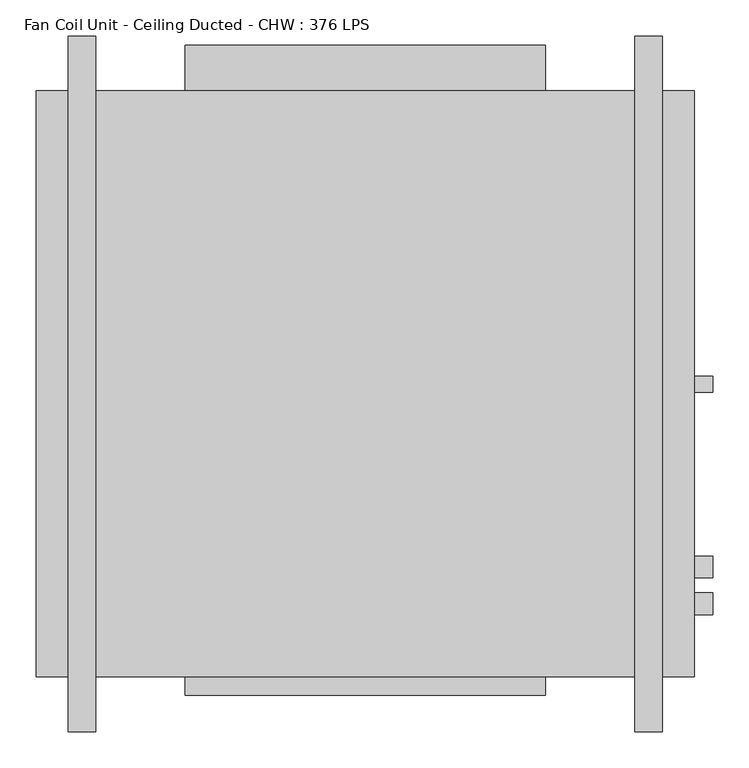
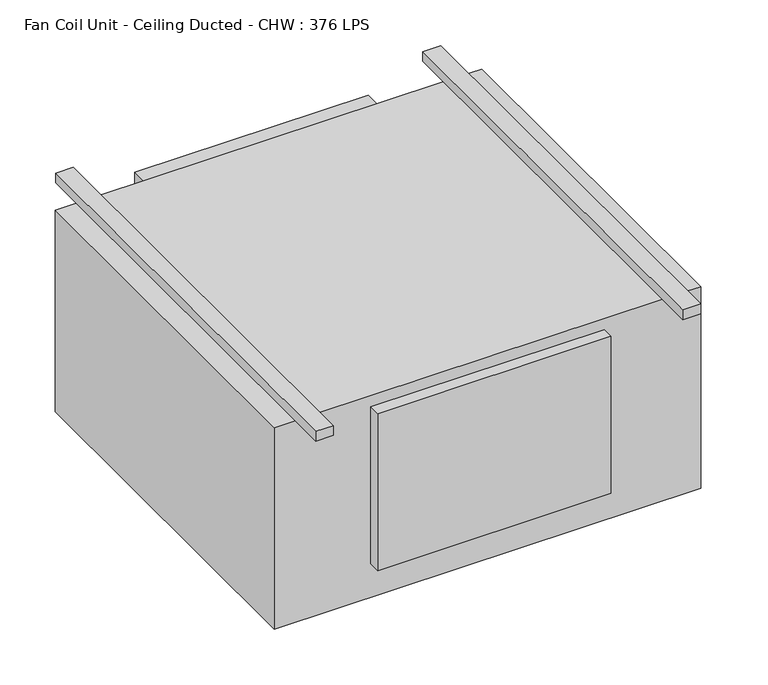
"""IFC4 building model written with IfcOpenShell, lengths in millimetres: proxy geometry, Fan Coil Unit - Ceiling Ducted - CHW : 376 LPS."""

import ifcopenshell
import ifcopenshell.guid

model = None  # the IFC model being written
_history = None  # IfcOwnerHistory: only IFC2X3 demands one
_inside = {}  # id of a spatial element -> (the spatial element, [elements in it])
_under = {}  # id of a project, library or spatial element -> (it, [spatial elements below it])
_declared = {}  # id of a project -> (the project, [libraries it declares])
_typed = {}  # id of a type object -> (the type object, [elements of that type])
_made_of = {}  # id of a material, layer set ... -> (it, [elements and type objects made of it])


def new_model(schema):
    """Start an empty IFC model of exactly this schema.

    Asked for "IFC4X3", IfcOpenShell would pick the latest addendum, in which some entities
    have other attributes; the version numbers below select the first issue.
    IFC2X3 requires an IfcOwnerHistory on every rooted entity: one is made here for all.
    """
    global model, _history
    if schema == "IFC4X3":
        model = ifcopenshell.file(schema_version=(4, 3, 0, 0))
    else:
        model = ifcopenshell.file(schema=schema)
    _inside.clear()
    _under.clear()
    _declared.clear()
    _typed.clear()
    _made_of.clear()
    _history = None
    if model.schema == "IFC2X3":
        org = make("IfcOrganization", Name="unknown")
        user = make(
            "IfcPersonAndOrganization",
            ThePerson=make("IfcPerson", FamilyName="unknown"),
            TheOrganization=org,
        )
        app = make(
            "IfcApplication",
            ApplicationDeveloper=org,
            Version="unknown",
            ApplicationFullName="unknown",
            ApplicationIdentifier="unknown",
        )
        _history = make(
            "IfcOwnerHistory",
            OwningUser=user,
            OwningApplication=app,
            ChangeAction="ADDED",
            CreationDate=0,
        )
    return model


def make(cls, **values):
    """One entity of the class cls with the attributes given. An attribute that is None is left unset."""
    return model.create_entity(
        cls, **{name: value for name, value in values.items() if value is not None}
    )


def rooted(cls, **values):
    """An entity with a GlobalId (a new one), such as an element, a storey or a relation."""
    return make(cls, GlobalId=ifcopenshell.guid.new(), OwnerHistory=_history, **values)


def si_unit(unit_type, name, prefix=None):
    """IfcSIUnit, for example si_unit("LENGTHUNIT", "METRE", prefix="MILLI")."""
    return make("IfcSIUnit", UnitType=unit_type, Prefix=prefix, Name=name)


def assignment(units):
    """IfcUnitAssignment: the units of a project."""
    return None if units is None else make("IfcUnitAssignment", Units=units)


def point(xyz):
    """IfcCartesianPoint."""
    return None if xyz is None else make("IfcCartesianPoint", Coordinates=xyz)


def direction(xyz):
    """IfcDirection."""
    return None if xyz is None else make("IfcDirection", DirectionRatios=xyz)


def frame(location, z_axis=None, x_axis=None):
    """IfcAxis2Placement3D, a coordinate frame: its origin and axes. An axis left out is left unset."""
    return make(
        "IfcAxis2Placement3D",
        Location=point(location),
        Axis=direction(z_axis),
        RefDirection=direction(x_axis),
    )


def origin():
    """The frame at (0, 0, 0) with its axes left unset."""
    return frame((0.0, 0.0, 0.0))


def place(relative_to, where):
    """IfcLocalPlacement: puts the frame where relative to a parent placement (None: the world)."""
    return make(
        "IfcLocalPlacement", PlacementRelTo=relative_to, RelativePlacement=where
    )


def context(
    kind, dimensions, precision=None, world=None, true_north=None, identifier=None
):
    """IfcGeometricRepresentationContext, for example the 3D "Model" context."""
    return make(
        "IfcGeometricRepresentationContext",
        ContextIdentifier=identifier,
        ContextType=kind,
        CoordinateSpaceDimension=dimensions,
        Precision=precision,
        WorldCoordinateSystem=world,
        TrueNorth=true_north,
    )


def project(units=None, contexts=None):
    """IfcProject with its units and contexts."""
    return rooted(
        "IfcProject",
        Name="project",
        RepresentationContexts=contexts,
        UnitsInContext=assignment(units),
    )


def spatial(cls, under=None, at=None, **own):
    """A site, building, storey or space (cls), placed at a placement, below another one or the project."""
    s = rooted(cls, ObjectPlacement=at, **own)
    if under is not None:
        _under.setdefault(under.id(), (under, []))[1].append(s)
    return s


def circle_curve(where, radius):
    """IfcCircle in the frame where."""
    return make("IfcCircle", Position=where, Radius=radius)


def shape(context_of_items, identifier, shape_type, items):
    """IfcShapeRepresentation: the items that make up one representation, for example the "Body"."""
    return make(
        "IfcShapeRepresentation",
        ContextOfItems=context_of_items,
        RepresentationIdentifier=identifier,
        RepresentationType=shape_type,
        Items=items,
    )


def source(mapping_origin, context_of_items, identifier, shape_type, items):
    """IfcRepresentationMap: a shape defined once, which mapped items show again and again."""
    return make(
        "IfcRepresentationMap",
        MappingOrigin=mapping_origin,
        MappedRepresentation=shape(context_of_items, identifier, shape_type, items),
    )


def transform(
    local_origin,
    x_axis=None,
    y_axis=None,
    z_axis=None,
    scale=None,
    scale2=None,
    scale3=None,
    uniform=True,
):
    """IfcCartesianTransformationOperator3D, or its non-uniform kind. x_axis, y_axis, z_axis: its Axis1, 2, 3."""
    if uniform:
        return make(
            "IfcCartesianTransformationOperator3D",
            Axis1=direction(x_axis),
            Axis2=direction(y_axis),
            LocalOrigin=point(local_origin),
            Scale=scale,
            Axis3=direction(z_axis),
        )
    return make(
        "IfcCartesianTransformationOperator3DnonUniform",
        Axis1=direction(x_axis),
        Axis2=direction(y_axis),
        LocalOrigin=point(local_origin),
        Scale=scale,
        Axis3=direction(z_axis),
        Scale2=scale2,
        Scale3=scale3,
    )


def mapped(mapping_source, mapping_target):
    """IfcMappedItem: shows the shape of a source again, moved by a transform."""
    return make(
        "IfcMappedItem", MappingSource=mapping_source, MappingTarget=mapping_target
    )


def made_of(thing, what):
    """Note that an element or type object is made of a material, layer set ...; save() writes the relation."""
    if what is not None:
        _made_of.setdefault(what.id(), (what, []))[1].append(thing)
    return thing


def element(
    cls,
    number,
    at=None,
    inside=None,
    cuts=None,
    type_object=None,
    material=None,
    context=None,
    identifier="Body",
    shape_type=None,
    held_by="IfcProductDefinitionShape",
    body=None,
    shapes=None,
    **own,
):
    """One element of the class cls, such as IfcWall. Its Tag is "e" and its number.

    at: its placement. inside: the storey or other place that contains it. cuts: it is an
    opening in that element (IfcRelVoidsElement). A single representation is given by context,
    identifier, shape_type and body (its items); several are given by shapes. held_by: the class
    of the entity that holds the representations. save() writes the other relations.
    """
    e = rooted(cls, Tag="e%d" % number, ObjectPlacement=at, **own)
    if body is not None:
        shapes = [shape(context, identifier, shape_type, body)]
    if shapes is not None:
        e.Representation = make(held_by, Representations=shapes)
    if inside is not None:
        _inside.setdefault(inside.id(), (inside, []))[1].append(e)
    if cuts is not None:
        rooted(
            "IfcRelVoidsElement", RelatingBuildingElement=cuts, RelatedOpeningElement=e
        )
    if type_object is not None:
        _typed.setdefault(type_object.id(), (type_object, []))[1].append(e)
    return made_of(e, material)


def aggregate(whole, parts):
    """IfcRelAggregates: a whole, such as a stair, and the parts it consists of."""
    return rooted("IfcRelAggregates", RelatingObject=whole, RelatedObjects=parts)


def save(model, path):
    """Write the relations noted so far, then the file.

    IfcRelAggregates (storeys below a building ...), IfcRelContainedInSpatialStructure (elements
    in a storey), IfcRelDefinesByType, IfcRelAssociatesMaterial and IfcRelDeclares: one each for
    every whole, place, type object, material and project.
    """
    for whole, parts in _under.values():
        aggregate(whole, parts)
    for where, things in _inside.values():
        rooted(
            "IfcRelContainedInSpatialStructure",
            RelatedElements=things,
            RelatingStructure=where,
        )
    for kind, things in _typed.values():
        rooted("IfcRelDefinesByType", RelatedObjects=things, RelatingType=kind)
    for what, things in _made_of.values():
        rooted("IfcRelAssociatesMaterial", RelatedObjects=things, RelatingMaterial=what)
    for by, libraries in _declared.values():
        rooted("IfcRelDeclares", RelatingContext=by, RelatedDefinitions=libraries)
    model.write(path)


def plane_surface(at):
    """IfcPlane: the flat surface through the origin of the frame at, square to its z axis."""
    return make("IfcPlane", Position=at)


def cylinder_surface(at, radius):
    """IfcCylindricalSurface: all points at the distance radius from the z axis of the frame at."""
    return make("IfcCylindricalSurface", Position=at, Radius=radius)


def advanced_brep(points, edges, surfaces, faces):
    """IfcAdvancedBrep: a solid bounded by faces that lie on surfaces and meet in shared edges.

    An edge is (start, end): straight between two places in points (the first is 0);
    or (start, end, curve); or (start, end, curve, False) where it runs against its curve.
    A face is (place in surfaces, loops), or (place, loops, False) where it looks against
    its surface's normal. A loop lists edges by number (the first is 1), with a minus sign
    where the edge is run from its end to its start. The first loop is the outer one.
    """
    corners = [point(p) for p in points]
    vertices = [make("IfcVertexPoint", VertexGeometry=c) for c in corners]
    made = []
    for start, end, *more in edges:
        made.append(
            make(
                "IfcEdgeCurve",
                EdgeStart=vertices[start],
                EdgeEnd=vertices[end],
                EdgeGeometry=more[0] if more else make("IfcPolyline", Points=[corners[start], corners[end]]),
                SameSense=more[1] if len(more) > 1 else True,
            )
        )
    hull = []
    for where, loops, *sense in faces:
        bounds = []
        for j, loop in enumerate(loops):
            ring = [make("IfcOrientedEdge", EdgeElement=made[abs(k) - 1], Orientation=k > 0) for k in loop]
            bounds.append(
                make(
                    "IfcFaceOuterBound" if j == 0 else "IfcFaceBound",
                    Bound=make("IfcEdgeLoop", EdgeList=ring),
                    Orientation=True,
                )
            )
        hull.append(make("IfcAdvancedFace", Bounds=bounds, FaceSurface=surfaces[where], SameSense=sense[0] if sense else True))
    return make("IfcAdvancedBrep", Outer=make("IfcClosedShell", CfsFaces=hull))


def fan_coil_unit_ceiling_ducted_chw_376_lps_945e770d(model_context):
    return source(origin(), model_context, "Body", "AdvancedBrep", [
        advanced_brep(
        [(82.55, 889.0, 479.425), (44.45, 889.0, 479.425), (44.45, -76.2, 479.425), (82.55, -76.2, 479.425), (82.55, -76.2, 457.2), (44.45, -76.2, 457.2), (44.45, 0.0, 457.2), (82.55, 0.0, 457.2), (44.45, 889.0, 457.2), (82.55, 889.0, 457.2), (82.55, 812.8, 457.2), (44.45, 812.8, 457.2), (869.55, 889.0, 479.425), (831.45, 889.0, 479.425), (831.45, -76.2, 479.425), (869.55, -76.2, 479.425), (869.55, -76.2, 457.2), (831.45, -76.2, 457.2), (831.45, 0.0, 457.2), (869.55, 0.0, 457.2), (831.45, 889.0, 457.2), (869.55, 889.0, 457.2), (869.55, 812.8, 457.2), (831.45, 812.8, 457.2), (939.4, 137.4, 381.0), (939.4, 167.4, 381.0), (914.0, 137.4, 381.0), (914.0, 167.4, 381.0), (939.4, 86.6, 101.6), (939.4, 116.6, 101.6), (914.0, 86.6, 101.6), (914.0, 116.6, 101.6), (939.4, 395.2875, 38.1), (939.4, 417.5125, 38.1), (914.0, 395.2875, 38.1), (914.0, 417.5125, 38.1), (0.0, 812.8, 457.2), (0.0, 0.0, 457.2), (914.0, 0.0, 457.2), (914.0, 812.8, 457.2), (914.0, 812.8, 0.0), (914.0, 0.0, 0.0), (0.0, 0.0, 0.0), (0.0, 812.8, 0.0), (707.0, 812.8, 431.8), (207.0, 812.8, 431.8), (207.0, 812.8, 76.2), (707.0, 812.8, 76.2), (207.0, 0.0, 431.8), (707.0, 0.0, 431.8), (707.0, 0.0, 76.2), (207.0, 0.0, 76.2), (707.0, 876.3, 431.8), (207.0, 876.3, 431.8), (707.0, 876.3, 76.2), (207.0, 876.3, 76.2), (207.0, -25.4, 431.8), (707.0, -25.4, 431.8), (707.0, -25.4, 76.2), (207.0, -25.4, 76.2)],
        [
            (0, 1),
            (1, 2),
            (2, 3),
            (3, 0),
            (4, 5),
            (5, 6),
            (6, 7),
            (7, 4),
            (8, 9),
            (9, 10),
            (10, 11),
            (11, 8),
            (0, 9),
            (8, 1),
            (11, 6),
            (5, 2),
            (4, 3),
            (7, 10),
            (12, 13),
            (13, 14),
            (14, 15),
            (15, 12),
            (16, 17),
            (17, 18),
            (18, 19),
            (19, 16),
            (20, 21),
            (21, 22),
            (22, 23),
            (23, 20),
            (12, 21),
            (20, 13),
            (23, 18),
            (17, 14),
            (16, 15),
            (19, 22),
            (24, 25, circle_curve(frame((939.4, 152.4, 381.0), z_axis=(1.0, 0.0, 0.0), x_axis=(0.0, 1.0, 0.0)), 15.0)),
            (25, 24, circle_curve(frame((939.4, 152.4, 381.0), z_axis=(1.0, 0.0, 0.0), x_axis=(0.0, 1.0, 0.0)), 15.0)),
            (24, 26),
            (26, 27, circle_curve(frame((914.0, 152.4, 381.0), z_axis=(1.0, 0.0, 0.0), x_axis=(0.0, 1.0, 0.0)), 15.0)),
            (27, 25),
            (27, 26, circle_curve(frame((914.0, 152.4, 381.0), z_axis=(1.0, 0.0, 0.0), x_axis=(0.0, 1.0, 0.0)), 15.0)),
            (28, 29, circle_curve(frame((939.4, 101.6, 101.6), z_axis=(1.0, 0.0, 0.0), x_axis=(0.0, 1.0, 0.0)), 15.0)),
            (29, 28, circle_curve(frame((939.4, 101.6, 101.6), z_axis=(1.0, 0.0, 0.0), x_axis=(0.0, 1.0, 0.0)), 15.0)),
            (28, 30),
            (30, 31, circle_curve(frame((914.0, 101.6, 101.6), z_axis=(1.0, 0.0, 0.0), x_axis=(0.0, 1.0, 0.0)), 15.0)),
            (31, 29),
            (31, 30, circle_curve(frame((914.0, 101.6, 101.6), z_axis=(1.0, 0.0, 0.0), x_axis=(0.0, 1.0, 0.0)), 15.0)),
            (32, 33, circle_curve(frame((939.4, 406.4, 38.1), z_axis=(1.0, 0.0, 0.0), x_axis=(0.0, 1.0, 0.0)), 11.1125)),
            (33, 32, circle_curve(frame((939.4, 406.4, 38.1), z_axis=(1.0, 0.0, 0.0), x_axis=(0.0, 1.0, 0.0)), 11.1125)),
            (32, 34),
            (34, 35, circle_curve(frame((914.0, 406.4, 38.1), z_axis=(1.0, 0.0, 0.0), x_axis=(0.0, 1.0, 0.0)), 11.1125)),
            (35, 33),
            (35, 34, circle_curve(frame((914.0, 406.4, 38.1), z_axis=(1.0, 0.0, 0.0), x_axis=(0.0, 1.0, 0.0)), 11.1125)),
            (36, 37),
            (37, 6),
            (11, 36),
            (38, 39),
            (39, 22),
            (19, 38),
            (23, 10),
            (7, 18),
            (40, 41),
            (41, 42),
            (42, 43),
            (43, 40),
            (43, 36),
            (39, 40),
            (44, 45),
            (45, 46),
            (46, 47),
            (47, 44),
            (42, 37),
            (41, 38),
            (48, 49),
            (49, 50),
            (50, 51),
            (51, 48),
            (52, 53),
            (53, 45),
            (44, 52),
            (54, 47),
            (46, 55),
            (55, 54),
            (52, 54),
            (55, 53),
            (48, 56),
            (56, 57),
            (57, 49),
            (50, 58),
            (58, 59),
            (59, 51),
            (59, 56),
            (58, 57),
        ],
        [
            plane_surface(frame((44.45, 889.0, 479.425), z_axis=(0.0, 0.0, 1.0), x_axis=(-1.0, 0.0, 0.0))),
            plane_surface(frame((44.45, 889.0, 457.2), z_axis=(0.0, 0.0, -1.0), x_axis=(1.0, 0.0, 0.0))),
            plane_surface(frame((82.55, 889.0, 479.425), z_axis=(0.0, 1.0, 0.0), x_axis=(0.0, 0.0, -1.0))),
            plane_surface(frame((44.45, 889.0, 479.425), z_axis=(-1.0, 0.0, 0.0), x_axis=(0.0, 0.0, -1.0))),
            plane_surface(frame((44.45, -76.2, 479.425), z_axis=(0.0, -1.0, 0.0), x_axis=(0.0, 0.0, -1.0))),
            plane_surface(frame((82.55, -76.2, 479.425), z_axis=(1.0, 0.0, 0.0), x_axis=(0.0, 0.0, -1.0))),
            plane_surface(frame((831.45, 889.0, 479.425), z_axis=(0.0, 0.0, 1.0), x_axis=(-1.0, 0.0, 0.0))),
            plane_surface(frame((831.45, 889.0, 457.2), z_axis=(0.0, 0.0, -1.0), x_axis=(1.0, 0.0, 0.0))),
            plane_surface(frame((869.55, 889.0, 479.425), z_axis=(0.0, 1.0, 0.0), x_axis=(0.0, 0.0, -1.0))),
            plane_surface(frame((831.45, 889.0, 479.425), z_axis=(-1.0, 0.0, 0.0), x_axis=(0.0, 0.0, -1.0))),
            plane_surface(frame((831.45, -76.2, 479.425), z_axis=(0.0, -1.0, 0.0), x_axis=(0.0, 0.0, -1.0))),
            plane_surface(frame((869.55, -76.2, 479.425), z_axis=(1.0, 0.0, 0.0), x_axis=(0.0, 0.0, -1.0))),
            plane_surface(frame((939.4, 167.4, 381.0), z_axis=(1.0, 0.0, 0.0), x_axis=(0.0, 0.0, 1.0))),
            cylinder_surface(frame((914.0, 152.4, 381.0), z_axis=(1.0, 0.0, 0.0), x_axis=(0.0, 1.0, 0.0)), 15.0),
            plane_surface(frame((939.4, 116.6, 101.6), z_axis=(1.0, 0.0, 0.0), x_axis=(0.0, 0.0, 1.0))),
            cylinder_surface(frame((914.0, 101.6, 101.6), z_axis=(1.0, 0.0, 0.0), x_axis=(0.0, 1.0, 0.0)), 15.0),
            plane_surface(frame((939.4, 417.5125, 38.1), z_axis=(1.0, 0.0, 0.0), x_axis=(0.0, 0.0, 1.0))),
            cylinder_surface(frame((914.0, 406.4, 38.1), z_axis=(1.0, 0.0, 0.0), x_axis=(0.0, 1.0, 0.0)), 11.1125),
            plane_surface(frame((0.0, 812.8, 457.2), z_axis=(0.0, 0.0, 1.0), x_axis=(-1.0, 0.0, 0.0))),
            plane_surface(frame((0.0, 812.8, 0.0), z_axis=(0.0, 0.0, -1.0), x_axis=(1.0, 0.0, 0.0))),
            plane_surface(frame((914.0, 812.8, 457.2), z_axis=(0.0, 1.0, 0.0), x_axis=(0.0, 0.0, -1.0))),
            plane_surface(frame((0.0, 812.8, 457.2), z_axis=(-1.0, 0.0, 0.0), x_axis=(0.0, 0.0, -1.0))),
            plane_surface(frame((0.0, 0.0, 457.2), z_axis=(0.0, -1.0, 0.0), x_axis=(0.0, 0.0, -1.0))),
            plane_surface(frame((914.0, 0.0, 457.2), z_axis=(1.0, 0.0, 0.0), x_axis=(0.0, 0.0, -1.0))),
            plane_surface(frame((207.0, 876.3, 431.8), z_axis=(0.0, 0.0, 1.0), x_axis=(-1.0, 0.0, 0.0))),
            plane_surface(frame((207.0, 876.3, 76.2), z_axis=(0.0, 0.0, -1.0), x_axis=(1.0, 0.0, 0.0))),
            plane_surface(frame((707.0, 876.3, 431.8), z_axis=(0.0, 1.0, 0.0), x_axis=(0.0, 0.0, -1.0))),
            plane_surface(frame((207.0, 876.3, 431.8), z_axis=(-1.0, 0.0, 0.0), x_axis=(0.0, 0.0, -1.0))),
            plane_surface(frame((707.0, 812.8, 431.8), z_axis=(1.0, 0.0, 0.0), x_axis=(0.0, 0.0, -1.0))),
            plane_surface(frame((207.0, 0.0, 431.8), z_axis=(0.0, 0.0, 1.0), x_axis=(-1.0, 0.0, 0.0))),
            plane_surface(frame((207.0, 0.0, 76.2), z_axis=(0.0, 0.0, -1.0), x_axis=(1.0, 0.0, 0.0))),
            plane_surface(frame((207.0, 0.0, 431.8), z_axis=(-1.0, 0.0, 0.0), x_axis=(0.0, 0.0, -1.0))),
            plane_surface(frame((207.0, -25.4, 431.8), z_axis=(0.0, -1.0, 0.0), x_axis=(0.0, 0.0, -1.0))),
            plane_surface(frame((707.0, -25.4, 431.8), z_axis=(1.0, 0.0, 0.0), x_axis=(0.0, 0.0, -1.0))),
        ],
        [
            (0, [[1, 2, 3, 4]]),
            (1, [[5, 6, 7, 8]]),
            (1, [[9, 10, 11, 12]]),
            (2, [[-1, 13, -9, 14]]),
            (3, [[-2, -14, -12, 15, -6, 16]]),
            (4, [[-3, -16, -5, 17]]),
            (5, [[-4, -17, -8, 18, -10, -13]]),
            (6, [[19, 20, 21, 22]]),
            (7, [[23, 24, 25, 26]]),
            (7, [[27, 28, 29, 30]]),
            (8, [[-19, 31, -27, 32]]),
            (9, [[-20, -32, -30, 33, -24, 34]]),
            (10, [[-21, -34, -23, 35]]),
            (11, [[-22, -35, -26, 36, -28, -31]]),
            (12, [[37, 38]]),
            (13, [[-37, 39, 40, 41]]),
            (13, [[-38, -41, 42, -39]]),
            (14, [[43, 44]]),
            (15, [[-43, 45, 46, 47]]),
            (15, [[-44, -47, 48, -45]]),
            (16, [[49, 50]]),
            (17, [[-49, 51, 52, 53]]),
            (17, [[-50, -53, 54, -51]]),
            (18, [[55, 56, -15, 57]]),
            (18, [[58, 59, -36, 60]]),
            (18, [[61, -18, 62, -33]]),
            (19, [[63, 64, 65, 66]]),
            (20, [[-66, 67, -57, -11, -61, -29, -59, 68], [69, 70, 71, 72]]),
            (21, [[-55, -67, -65, 73]]),
            (22, [[-64, 74, -60, -25, -62, -7, -56, -73], [75, 76, 77, 78]]),
            (23, [[-58, -74, -63, -68], [-40, -42], [-46, -48], [-52, -54]]),
            (24, [[79, 80, -69, 81]]),
            (25, [[82, -71, 83, 84]]),
            (26, [[-79, 85, -84, 86]]),
            (27, [[-80, -86, -83, -70]]),
            (28, [[-81, -72, -82, -85]]),
            (29, [[87, 88, 89, -75]]),
            (30, [[90, 91, 92, -77]]),
            (31, [[-87, -78, -92, 93]]),
            (32, [[-88, -93, -91, 94]]),
            (33, [[-89, -94, -90, -76]]),
        ],
    ),
    ])


if __name__ == "__main__":
    model = new_model("IFC4")
    model_context = context("Model", 3, world=origin())
    ifc_project = project(units=[si_unit("LENGTHUNIT", "METRE", prefix="MILLI")], contexts=[model_context])
    site = spatial("IfcSite", under=ifc_project)
    building = spatial("IfcBuilding", under=site)
    placement = place(None, origin())
    fan_coil_unit_ceiling_ducted_chw_376_lps_shape = fan_coil_unit_ceiling_ducted_chw_376_lps_945e770d(model_context)
    element("IfcBuildingElementProxy", 1, Name="Fan Coil Unit - Ceiling Ducted - CHW : 376 LPS", ObjectType="Fan Coil Unit - Ceiling Ducted - CHW : 376 LPS", at=placement, inside=building, context=model_context, shape_type="MappedRepresentation", body=[
        mapped(fan_coil_unit_ceiling_ducted_chw_376_lps_shape, transform((0.0, 0.0, 0.0), x_axis=(1.0, 0.0, 0.0), y_axis=(0.0, 1.0, 0.0), z_axis=(0.0, 0.0, 1.0))),
    ])
    save(model, "model.ifc")
